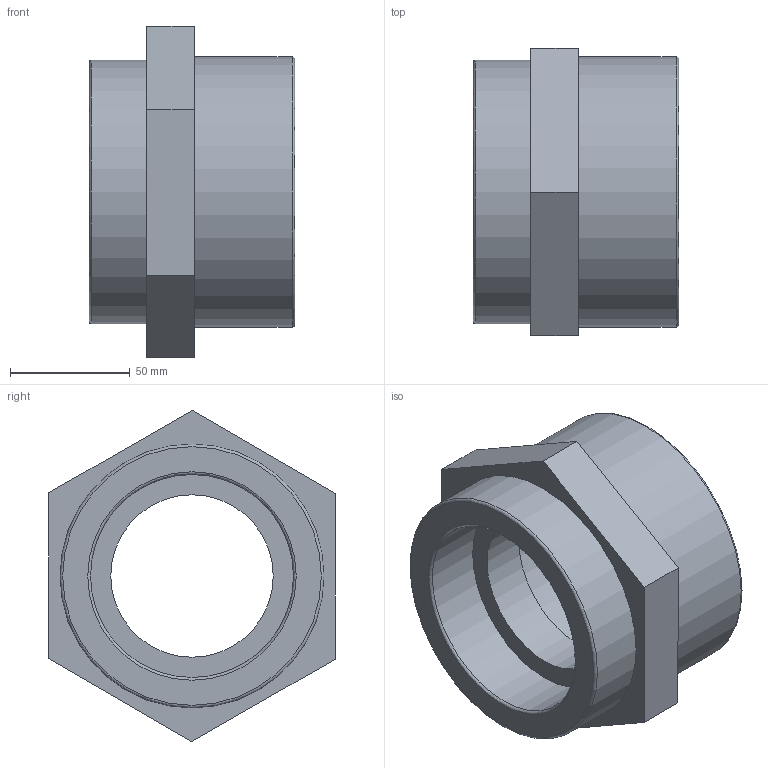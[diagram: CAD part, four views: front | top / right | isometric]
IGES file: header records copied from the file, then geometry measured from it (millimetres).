
Global section: file name: 050201040030.ipt; native system: Autodesk Inventor 2015; preprocessor: unknown; author: KIM; date: 20171207.164339; units: millimetre
Bounding box: 86 x 120.2 x 138.56 mm (x, y, z)
Volume: 420046.8 mm3; surface area: 71291.7 mm2
Topology: 1 solids, 1 shells, 21 faces, 55 edges, 40 vertices
Faces by surface type: plane 12, revolution 7, cylinder 2
Full cylindrical faces by diameter (mm): 110.404 x1, 113.03 x1
